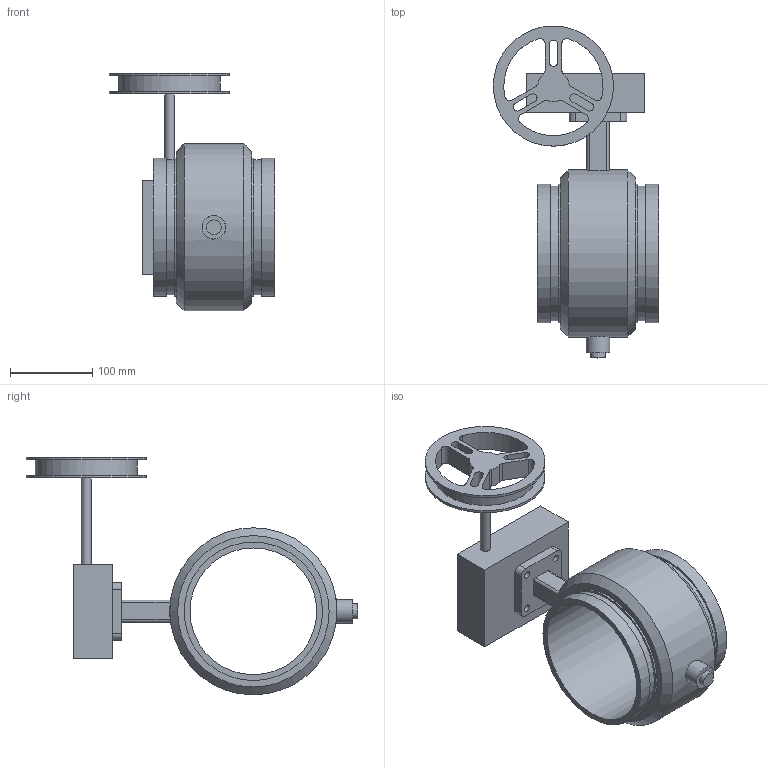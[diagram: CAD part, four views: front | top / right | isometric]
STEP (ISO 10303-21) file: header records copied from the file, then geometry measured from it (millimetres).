
FILE_DESCRIPTION(/* description */ ('VIC SS BUTTERFLY VALVE GO CW SERIES 250-S (OGS)'),/* implementation_level */ '2;1');
FILE_NAME(/* name */ 'C:\Files for Export\250-S\Victaulic_SS_Vlv Btfl GO CW_Series 250-S (OGS)\Victaulic_SS_Vlv Btfl GO CW_Series 250-S (OGS)_6 (150).stp',/* time_stamp */ '2024-10-14T13:12:43+02:00',/* author */ ('cps_temp'),/* organization */ ('Victaulic'),/* preprocessor_version */ 'ST-DEVELOPER v18.1',/* originating_system */ 'Autodesk Inventor 2020',/* authorisation */ '');
FILE_SCHEMA (('AUTOMOTIVE_DESIGN { 1 0 10303 214 3 1 1 }'));
Length unit declared in the file: inch
Products named in the file (1): 250-S4-06.0
Bounding box: 200.91 x 403.23 x 289.05 mm (x, y, z)
Volume: 2400328.3 mm3; surface area: 318201.8 mm2
Topology: 1 solids, 2 shells, 101 faces, 258 edges, 179 vertices
Faces by surface type: cylinder 52, plane 47, cone 2
Full cylindrical faces by diameter (mm): 8.636 x4, 11.938 x1, 18.034 x2, 28.575 x1, 55.118 x1, 123.825 x1, 146.05 x2, 154.051 x1, 163.957 x2, 168.275 x4, 203.2 x1
Entity records: 3395 total; most frequent: CARTESIAN_POINT 610, DIRECTION 581, ORIENTED_EDGE 516, EDGE_CURVE 258, AXIS2_PLACEMENT_3D 228, VERTEX_POINT 179, EDGE_LOOP 135, CIRCLE 126
